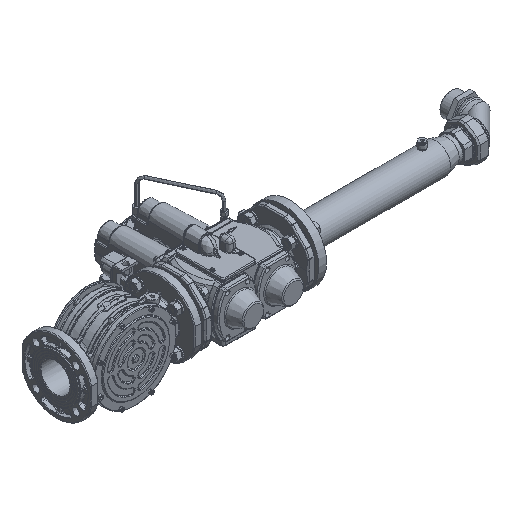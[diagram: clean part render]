
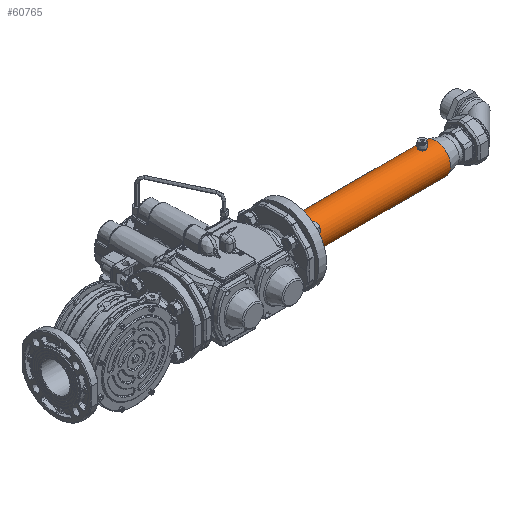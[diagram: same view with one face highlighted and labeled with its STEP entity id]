
A CAD part, isometric view. The second image highlights one B-rep face of the part: STEP entity #60765.
In plain terms, the highlighted cylindrical face has radius 38.05 mm (diameter 76.1 mm), a full revolution.
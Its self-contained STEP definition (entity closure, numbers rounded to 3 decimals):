
#1515 = CARTESIAN_POINT ( 'NONE',  ( 131.058, 527.048, -2.442 ) ) ;
#3473 = CARTESIAN_POINT ( 'NONE',  ( 130.524, 527.006, -3.012 ) ) ;
#7446 = CARTESIAN_POINT ( 'NONE',  ( 124.084, 527.104, -1.29 ) ) ;
#9419 = CARTESIAN_POINT ( 'NONE',  ( 129.17, 526.936, -3.795 ) ) ;
#9553 = AXIS2_PLACEMENT_3D ( 'NONE', #152092, #368469, #59743 ) ;
#11395 = CARTESIAN_POINT ( 'NONE',  ( 131.059, 527.048, 2.44 ) ) ;
#15337 = CARTESIAN_POINT ( 'NONE',  ( 124.009, 527.112, 1.042 ) ) ;
#17313 = CARTESIAN_POINT ( 'NONE',  ( 130.891, 527.034, 2.646 ) ) ;
#31590 = CARTESIAN_POINT ( 'NONE',  ( 128.145, 526.915, -4. ) ) ;
#35550 = CARTESIAN_POINT ( 'NONE',  ( 128.405, 526.917, -3.974 ) ) ;
#37516 = CARTESIAN_POINT ( 'NONE',  ( 124.007, 527.112, -1.036 ) ) ;
#39496 = CARTESIAN_POINT ( 'NONE',  ( 131.674, 527.104, -1.292 ) ) ;
#41487 = CARTESIAN_POINT ( 'NONE',  ( 125.239, 527.006, 3.016 ) ) ;
#43449 = CARTESIAN_POINT ( 'NONE',  ( 131.854, 527.123, -0.523 ) ) ;
#47392 = CARTESIAN_POINT ( 'NONE',  ( 129.651, 526.955, 3.596 ) ) ;
#49381 = CARTESIAN_POINT ( 'NONE',  ( 128.142, 526.915, 4. ) ) ;
#59743 = DIRECTION ( 'NONE',  ( 0., 0., 1. ) ) ;
#60765 = ADVANCED_FACE ( 'NONE', ( #307046, #216885, #246947 ), #375120, .T. ) ;
#65659 = CARTESIAN_POINT ( 'NONE',  ( 127.617, 526.915, -4. ) ) ;
#69591 = CARTESIAN_POINT ( 'NONE',  ( 129.884, 526.967, -3.471 ) ) ;
#70392 = DIRECTION ( 'NONE',  ( 0., 0., 1. ) ) ;
#71574 = CARTESIAN_POINT ( 'NONE',  ( 125.874, 526.967, 3.471 ) ) ;
#76981 = ORIENTED_EDGE ( 'NONE', *, *, #244763, .T. ) ;
#77492 = CARTESIAN_POINT ( 'NONE',  ( 124.285, 527.085, 1.775 ) ) ;
#79461 = CARTESIAN_POINT ( 'NONE',  ( 124.411, 527.073, 2.009 ) ) ;
#99728 = CARTESIAN_POINT ( 'NONE',  ( 126.586, 526.936, -3.794 ) ) ;
#103692 = CARTESIAN_POINT ( 'NONE',  ( 123.879, 527.125, 0. ) ) ;
#107637 = CARTESIAN_POINT ( 'NONE',  ( 124.7, 527.048, 2.441 ) ) ;
#108100 = EDGE_LOOP ( 'NONE', ( #180747 ) ) ;
#112678 = EDGE_CURVE ( 'NONE', #112684, #112684, #195419, .T. ) ;
#112684 = VERTEX_POINT ( 'NONE', #140740 ) ;
#120962 = DIRECTION ( 'NONE',  ( 0., 0., 1. ) ) ;
#123937 = CARTESIAN_POINT ( 'NONE',  ( 124.407, 527.073, -2.003 ) ) ;
#125910 = CARTESIAN_POINT ( 'NONE',  ( 123.879, 527.125, -0.264 ) ) ;
#129854 = CARTESIAN_POINT ( 'NONE',  ( 125.873, 526.967, -3.47 ) ) ;
#129958 = AXIS2_PLACEMENT_3D ( 'NONE', #271326, #393536, #120962 ) ;
#131825 = CARTESIAN_POINT ( 'NONE',  ( 131.853, 527.123, 0.527 ) ) ;
#133791 = CARTESIAN_POINT ( 'NONE',  ( 126.108, 526.955, 3.596 ) ) ;
#137731 = CARTESIAN_POINT ( 'NONE',  ( 129.17, 526.936, 3.795 ) ) ;
#139683 = CARTESIAN_POINT ( 'NONE',  ( 130.32, 526.993, 3.18 ) ) ;
#140740 = CARTESIAN_POINT ( 'NONE',  ( -222.121, 489.075, 38.05 ) ) ;
#152092 = CARTESIAN_POINT ( 'NONE',  ( -222.121, 489.075, 0. ) ) ;
#155074 = AXIS2_PLACEMENT_3D ( 'NONE', #222813, #345026, #70392 ) ;
#155984 = CARTESIAN_POINT ( 'NONE',  ( 126.105, 526.955, -3.595 ) ) ;
#157970 = CARTESIAN_POINT ( 'NONE',  ( 123.879, 527.125, 0. ) ) ;
#161929 = CARTESIAN_POINT ( 'NONE',  ( 130.319, 526.993, -3.181 ) ) ;
#167837 = CARTESIAN_POINT ( 'NONE',  ( 126.592, 526.936, 3.796 ) ) ;
#168323 = CIRCLE ( 'NONE', #129958, 38.05 ) ;
#169793 = CARTESIAN_POINT ( 'NONE',  ( 129.883, 526.967, 3.472 ) ) ;
#173381 = CARTESIAN_POINT ( 'NONE',  ( 162.836, 489.075, 38.05 ) ) ;
#180747 = ORIENTED_EDGE ( 'NONE', *, *, #112678, .T. ) ;
#188530 = B_SPLINE_CURVE_WITH_KNOTS ( 'NONE', 3,
 ( #157970, #125910, #282143, #37516, #7446, #308247, #123937, #338278, #246156, #306260, #218095, #129854, #155984, #99728, #248146, #252107, #65659, #31590, #35550, #278185, #9419, #222033, #69591, #161929, #3473, #310216, #1515, #191978, #314155, #39496, #284106, #43449, #346237, #261990, #131825, #193970, #256065, #323996, #291982, #11395, #17313, #316136, #139683, #169793, #47392, #137731, #197910, #293945, #49381, #260029, #378275, #382213, #167837, #133791, #71574, #199879, #41487, #224002, #107637, #79461, #77492, #384184, #15337, #229906, #348217, #103692 ),
 .UNSPECIFIED., .T., .F.,
 ( 4, 2, 2, 2, 2, 2, 2, 2, 2, 2, 2, 2, 2, 2, 2, 2, 2, 2, 2, 2, 2, 2, 2, 2, 2, 2, 2, 2, 2, 2, 2, 2, 4 ),
 ( 0., 0.001, 0.002, 0.002, 0.003, 0.004, 0.005, 0.005, 0.006, 0.007, 0.008, 0.009, 0.009, 0.01, 0.011, 0.012, 0.013, 0.013, 0.014, 0.015, 0.016, 0.016, 0.017, 0.018, 0.019, 0.02, 0.02, 0.021, 0.022, 0.023, 0.023, 0.024, 0.025 ),
 .UNSPECIFIED. ) ;
#191978 = CARTESIAN_POINT ( 'NONE',  ( 131.35, 527.073, -2.005 ) ) ;
#193970 = CARTESIAN_POINT ( 'NONE',  ( 131.751, 527.112, 1.038 ) ) ;
#195419 = CIRCLE ( 'NONE', #9553, 38.05 ) ;
#197910 = CARTESIAN_POINT ( 'NONE',  ( 128.918, 526.928, 3.872 ) ) ;
#199879 = CARTESIAN_POINT ( 'NONE',  ( 125.441, 526.992, 3.182 ) ) ;
#216885 = FACE_OUTER_BOUND ( 'NONE', #261482, .T. ) ;
#218095 = CARTESIAN_POINT ( 'NONE',  ( 125.436, 526.993, -3.178 ) ) ;
#222033 = CARTESIAN_POINT ( 'NONE',  ( 129.655, 526.955, -3.594 ) ) ;
#222813 = CARTESIAN_POINT ( 'NONE',  ( -222.121, 489.075, 0. ) ) ;
#224002 = CARTESIAN_POINT ( 'NONE',  ( 124.866, 527.034, 2.643 ) ) ;
#229906 = CARTESIAN_POINT ( 'NONE',  ( 123.906, 527.123, 0.529 ) ) ;
#244763 = EDGE_CURVE ( 'NONE', #351779, #351779, #188530, .T. ) ;
#246156 = CARTESIAN_POINT ( 'NONE',  ( 124.866, 527.034, -2.644 ) ) ;
#246947 = FACE_OUTER_BOUND ( 'NONE', #108100, .T. ) ;
#248146 = CARTESIAN_POINT ( 'NONE',  ( 126.838, 526.928, -3.871 ) ) ;
#252107 = CARTESIAN_POINT ( 'NONE',  ( 127.355, 526.917, -3.974 ) ) ;
#256065 = CARTESIAN_POINT ( 'NONE',  ( 131.674, 527.104, 1.292 ) ) ;
#260029 = CARTESIAN_POINT ( 'NONE',  ( 127.62, 526.915, 4. ) ) ;
#261482 = EDGE_LOOP ( 'NONE', ( #376261 ) ) ;
#261990 = CARTESIAN_POINT ( 'NONE',  ( 131.879, 527.125, 0.267 ) ) ;
#271326 = CARTESIAN_POINT ( 'NONE',  ( 162.836, 489.075, 0. ) ) ;
#278185 = CARTESIAN_POINT ( 'NONE',  ( 128.916, 526.928, -3.872 ) ) ;
#282143 = CARTESIAN_POINT ( 'NONE',  ( 123.905, 527.123, -0.524 ) ) ;
#284106 = CARTESIAN_POINT ( 'NONE',  ( 131.751, 527.112, -1.04 ) ) ;
#291982 = CARTESIAN_POINT ( 'NONE',  ( 131.35, 527.073, 2.006 ) ) ;
#293945 = CARTESIAN_POINT ( 'NONE',  ( 128.401, 526.917, 3.975 ) ) ;
#306260 = CARTESIAN_POINT ( 'NONE',  ( 125.235, 527.006, -3.012 ) ) ;
#307046 = FACE_BOUND ( 'NONE', #365928, .T. ) ;
#308247 = CARTESIAN_POINT ( 'NONE',  ( 124.285, 527.085, -1.774 ) ) ;
#310216 = CARTESIAN_POINT ( 'NONE',  ( 130.893, 527.034, -2.643 ) ) ;
#314155 = CARTESIAN_POINT ( 'NONE',  ( 131.475, 527.085, -1.773 ) ) ;
#316136 = CARTESIAN_POINT ( 'NONE',  ( 130.522, 527.006, 3.014 ) ) ;
#323996 = CARTESIAN_POINT ( 'NONE',  ( 131.473, 527.085, 1.776 ) ) ;
#338278 = CARTESIAN_POINT ( 'NONE',  ( 124.697, 527.048, -2.438 ) ) ;
#345026 = DIRECTION ( 'NONE',  ( -1., 0., 0. ) ) ;
#346237 = CARTESIAN_POINT ( 'NONE',  ( 131.88, 527.125, -0.261 ) ) ;
#348217 = CARTESIAN_POINT ( 'NONE',  ( 123.879, 527.125, 0.264 ) ) ;
#351779 = VERTEX_POINT ( 'NONE', #353767 ) ;
#353767 = CARTESIAN_POINT ( 'NONE',  ( 123.879, 527.125, 0. ) ) ;
#365928 = EDGE_LOOP ( 'NONE', ( #76981 ) ) ;
#368469 = DIRECTION ( 'NONE',  ( 1., 0., 0. ) ) ;
#370370 = EDGE_CURVE ( 'NONE', #389724, #389724, #168323, .T. ) ;
#375120 = CYLINDRICAL_SURFACE ( 'NONE', #155074, 38.05 ) ;
#376261 = ORIENTED_EDGE ( 'NONE', *, *, #370370, .T. ) ;
#378275 = CARTESIAN_POINT ( 'NONE',  ( 127.355, 526.917, 3.974 ) ) ;
#382213 = CARTESIAN_POINT ( 'NONE',  ( 126.842, 526.928, 3.872 ) ) ;
#384184 = CARTESIAN_POINT ( 'NONE',  ( 124.084, 527.104, 1.291 ) ) ;
#389724 = VERTEX_POINT ( 'NONE', #173381 ) ;
#393536 = DIRECTION ( 'NONE',  ( -1., 0., 0. ) ) ;
